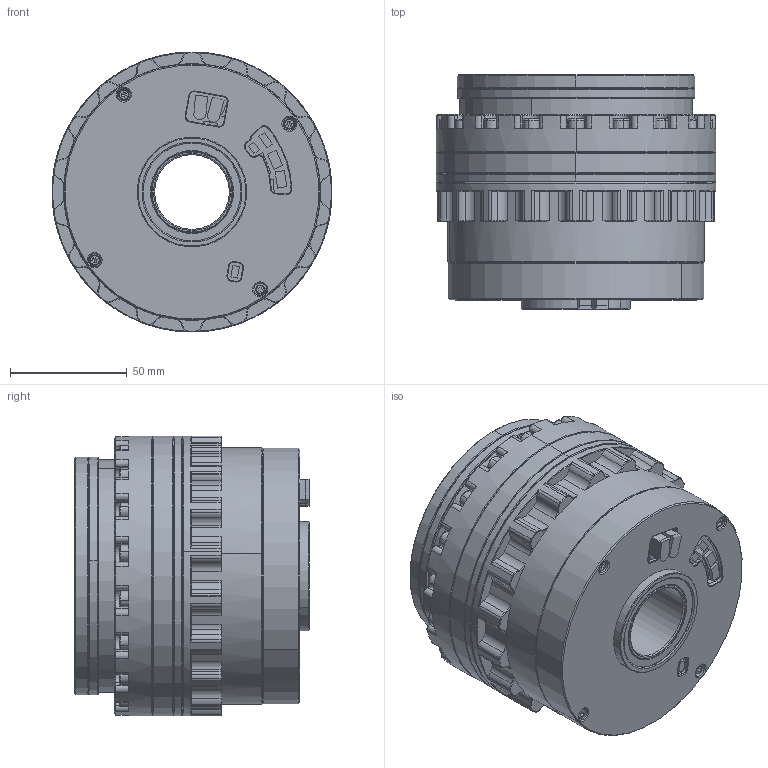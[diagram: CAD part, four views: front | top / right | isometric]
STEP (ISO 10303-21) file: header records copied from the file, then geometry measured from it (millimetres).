
FILE_DESCRIPTION (( 'STEP AP203' ), '1' );
FILE_NAME ('CRA-RI100-120-PRO-2-xxx-B0.STEP', '2024-12-04T09:28:04', ( '' ), ( '' ), 'SwSTEP 2.0', 'SolidWorks 2021', '' );
FILE_SCHEMA (( 'CONFIG_CONTROL_DESIGN' ));
Length unit declared in the file: millimetre
Products named in the file (1): CRA-RI100-120-PRO-2-xxx-B0
Bounding box: 120 x 100.5 x 120 mm (x, y, z)
Surface area: 115718.2 mm2 (no closed solid volume)
Topology: 0 solids, 90 shells, 1468 faces, 4455 edges, 3019 vertices
Faces by surface type: plane 531, cone 450, cylinder 435, torus 52
Entity records: 52102 total; most frequent: CARTESIAN_POINT 11150, DIRECTION 9176, ORIENTED_EDGE 7552, EDGE_CURVE 4433, AXIS2_PLACEMENT_3D 3439, VERTEX_POINT 3019, LINE 2298, VECTOR 2298
